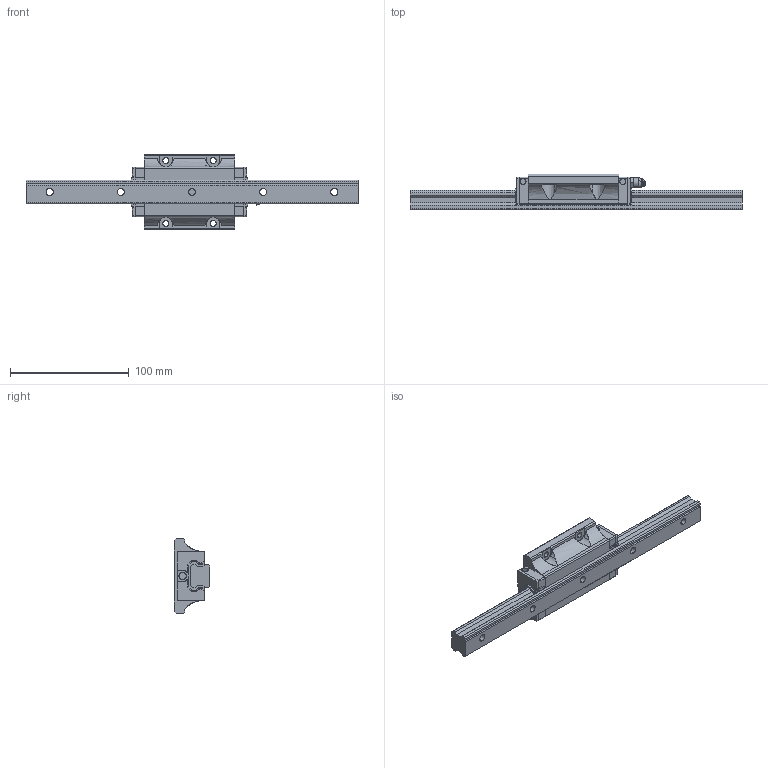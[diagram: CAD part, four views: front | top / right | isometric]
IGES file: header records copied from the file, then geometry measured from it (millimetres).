
Start section: SolidWorks IGES file using analytic representation for surfaces
Global section: file name: C:\Users\tsuch\OneDrive\デスクトップ\EG20関連修正(3D)\EGH20FL.IGS; native system: SolidWorks 2019; preprocessor: SolidWorks 2019; author: tsuch; date: 210625.172414; units: millimetre
Bounding box: 280 x 30 x 63 mm (x, y, z)
Surface area: 50686.8 mm2 (no closed solid volume)
Topology: 0 solids, 0 shells, 549 faces, 5663 edges, 5663 vertices
Faces by surface type: bspline 354, revolution 195
